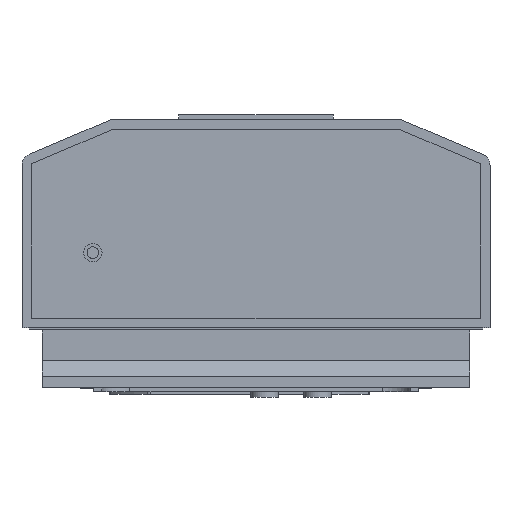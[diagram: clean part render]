
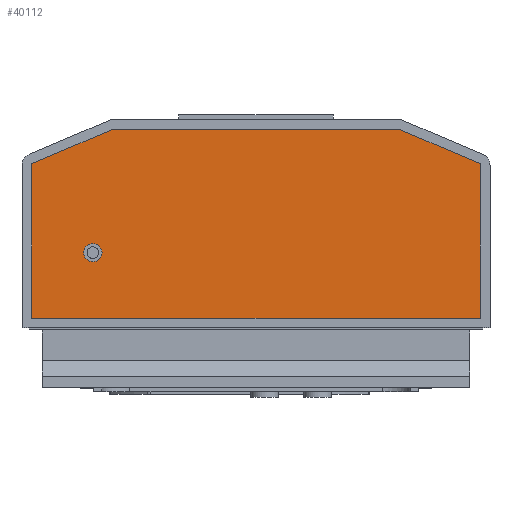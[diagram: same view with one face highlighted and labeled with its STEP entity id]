
A CAD part, front view. The second image highlights one B-rep face of the part: STEP entity #40112.
In plain terms, the highlighted planar face has unit normal (0, -1, 0).
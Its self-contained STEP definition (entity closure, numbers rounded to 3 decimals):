
#1274 = PLANE ( 'NONE',  #37387 ) ;
#1676 = LINE ( 'NONE', #19096, #52948 ) ;
#1848 = EDGE_CURVE ( 'NONE', #5810, #13249, #1676, .T. ) ;
#2023 = CARTESIAN_POINT ( 'NONE',  ( -169., 16., -128.5 ) ) ;
#2537 = CARTESIAN_POINT ( 'NONE',  ( -169., 16., -138. ) ) ;
#2805 = DIRECTION ( 'NONE',  ( 0., 0., 1. ) ) ;
#3153 = AXIS2_PLACEMENT_3D ( 'NONE', #2537, #51105, #2805 ) ;
#3371 = VECTOR ( 'NONE', #26789, 1000. ) ;
#3760 = VERTEX_POINT ( 'NONE', #10945 ) ;
#5745 = ORIENTED_EDGE ( 'NONE', *, *, #10736, .F. ) ;
#5810 = VERTEX_POINT ( 'NONE', #8626 ) ;
#6774 = VECTOR ( 'NONE', #9722, 1000. ) ;
#8626 = CARTESIAN_POINT ( 'NONE',  ( 232.5, 16., -45.883 ) ) ;
#8840 = CARTESIAN_POINT ( 'NONE',  ( -169., 16., -138. ) ) ;
#9437 = CARTESIAN_POINT ( 'NONE',  ( -147.965, 16., -10. ) ) ;
#9722 = DIRECTION ( 'NONE',  ( -1., 0., 0. ) ) ;
#9847 = CARTESIAN_POINT ( 'NONE',  ( 0., 16., 0. ) ) ;
#10736 = EDGE_CURVE ( 'NONE', #20203, #47421, #27809, .T. ) ;
#10945 = CARTESIAN_POINT ( 'NONE',  ( -147.965, 16., -10. ) ) ;
#11302 = ORIENTED_EDGE ( 'NONE', *, *, #47443, .F. ) ;
#11761 = ORIENTED_EDGE ( 'NONE', *, *, #1848, .T. ) ;
#13249 = VERTEX_POINT ( 'NONE', #40797 ) ;
#14340 = CIRCLE ( 'NONE', #56338, 9.5 ) ;
#16075 = LINE ( 'NONE', #37239, #28477 ) ;
#19096 = CARTESIAN_POINT ( 'NONE',  ( 147.965, 16., -10. ) ) ;
#19496 = CARTESIAN_POINT ( 'NONE',  ( -232.5, 16., -206. ) ) ;
#20203 = VERTEX_POINT ( 'NONE', #2023 ) ;
#22283 = CARTESIAN_POINT ( 'NONE',  ( -169., 16., -147.5 ) ) ;
#22557 = EDGE_CURVE ( 'NONE', #3760, #32657, #16075, .T. ) ;
#22567 = DIRECTION ( 'NONE',  ( 0., -1., 0. ) ) ;
#23167 = LINE ( 'NONE', #40884, #34818 ) ;
#23309 = CARTESIAN_POINT ( 'NONE',  ( 232.5, 16., -206. ) ) ;
#23426 = CARTESIAN_POINT ( 'NONE',  ( -232.5, 16., -45.883 ) ) ;
#23705 = LINE ( 'NONE', #23426, #46935 ) ;
#24303 = EDGE_CURVE ( 'NONE', #13249, #3760, #40304, .T. ) ;
#26143 = VERTEX_POINT ( 'NONE', #19496 ) ;
#26560 = DIRECTION ( 'NONE',  ( 0., 0., 1. ) ) ;
#26789 = DIRECTION ( 'NONE',  ( 1., 0., 0. ) ) ;
#27076 = CARTESIAN_POINT ( 'NONE',  ( -232.5, 16., -206. ) ) ;
#27268 = DIRECTION ( 'NONE',  ( 0., 0., 1. ) ) ;
#27809 = CIRCLE ( 'NONE', #3153, 9.5 ) ;
#27991 = DIRECTION ( 'NONE',  ( 0., 0., -1. ) ) ;
#28477 = VECTOR ( 'NONE', #29213, 1000. ) ;
#29213 = DIRECTION ( 'NONE',  ( -0.921, 0., -0.391 ) ) ;
#30163 = ORIENTED_EDGE ( 'NONE', *, *, #50262, .T. ) ;
#32657 = VERTEX_POINT ( 'NONE', #54374 ) ;
#34144 = ORIENTED_EDGE ( 'NONE', *, *, #55519, .T. ) ;
#34267 = ORIENTED_EDGE ( 'NONE', *, *, #24303, .T. ) ;
#34818 = VECTOR ( 'NONE', #40604, 1000. ) ;
#35359 = LINE ( 'NONE', #27076, #3371 ) ;
#35515 = ORIENTED_EDGE ( 'NONE', *, *, #44884, .T. ) ;
#36716 = ORIENTED_EDGE ( 'NONE', *, *, #22557, .T. ) ;
#37239 = CARTESIAN_POINT ( 'NONE',  ( -147.965, 16., -10. ) ) ;
#37387 = AXIS2_PLACEMENT_3D ( 'NONE', #9847, #45281, #27268 ) ;
#40112 = ADVANCED_FACE ( 'NONE', ( #53862, #49005 ), #1274, .F. ) ;
#40304 = LINE ( 'NONE', #9437, #6774 ) ;
#40604 = DIRECTION ( 'NONE',  ( 0., 0., 1. ) ) ;
#40797 = CARTESIAN_POINT ( 'NONE',  ( 147.965, 16., -10. ) ) ;
#40884 = CARTESIAN_POINT ( 'NONE',  ( 232.5, 16., -45.883 ) ) ;
#42370 = EDGE_LOOP ( 'NONE', ( #5745, #11302 ) ) ;
#44884 = EDGE_CURVE ( 'NONE', #32657, #26143, #23705, .T. ) ;
#45281 = DIRECTION ( 'NONE',  ( 0., 1., 0. ) ) ;
#45418 = EDGE_LOOP ( 'NONE', ( #34267, #36716, #35515, #30163, #34144, #11761 ) ) ;
#46454 = VERTEX_POINT ( 'NONE', #23309 ) ;
#46935 = VECTOR ( 'NONE', #27991, 1000. ) ;
#47421 = VERTEX_POINT ( 'NONE', #22283 ) ;
#47443 = EDGE_CURVE ( 'NONE', #47421, #20203, #14340, .T. ) ;
#49005 = FACE_OUTER_BOUND ( 'NONE', #45418, .T. ) ;
#50262 = EDGE_CURVE ( 'NONE', #26143, #46454, #35359, .T. ) ;
#51105 = DIRECTION ( 'NONE',  ( 0., -1., 0. ) ) ;
#52948 = VECTOR ( 'NONE', #53983, 1000. ) ;
#53862 = FACE_BOUND ( 'NONE', #42370, .T. ) ;
#53983 = DIRECTION ( 'NONE',  ( -0.921, 0., 0.391 ) ) ;
#54374 = CARTESIAN_POINT ( 'NONE',  ( -232.5, 16., -45.883 ) ) ;
#55519 = EDGE_CURVE ( 'NONE', #46454, #5810, #23167, .T. ) ;
#56338 = AXIS2_PLACEMENT_3D ( 'NONE', #8840, #22567, #26560 ) ;
